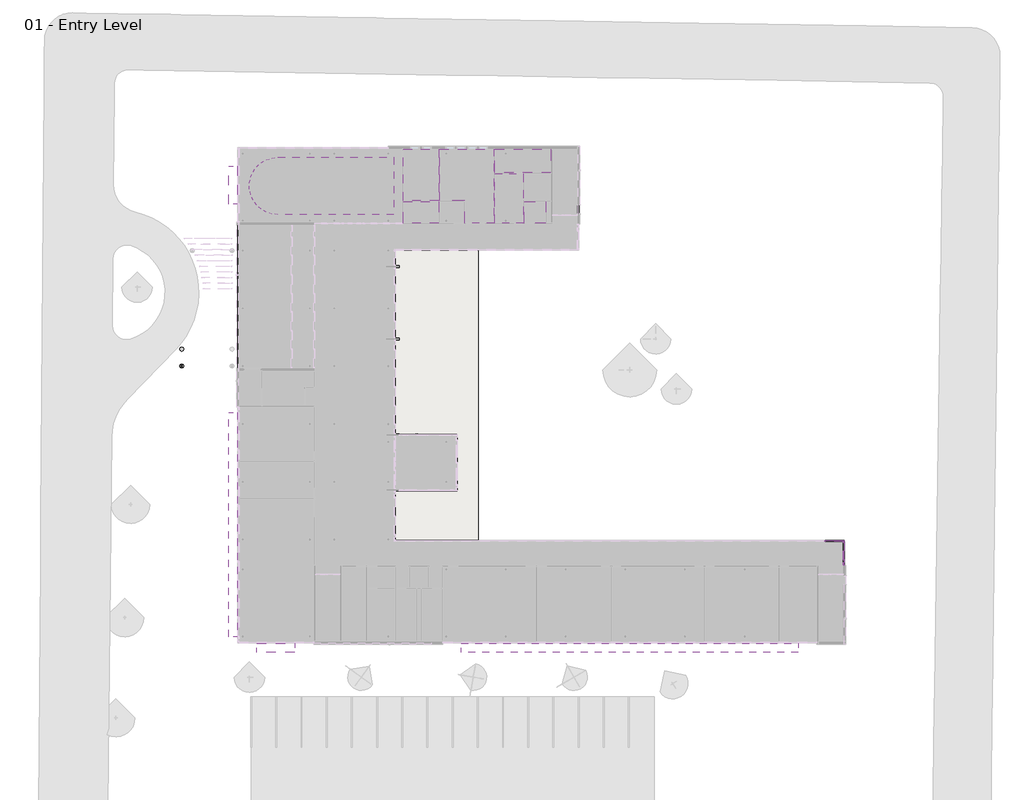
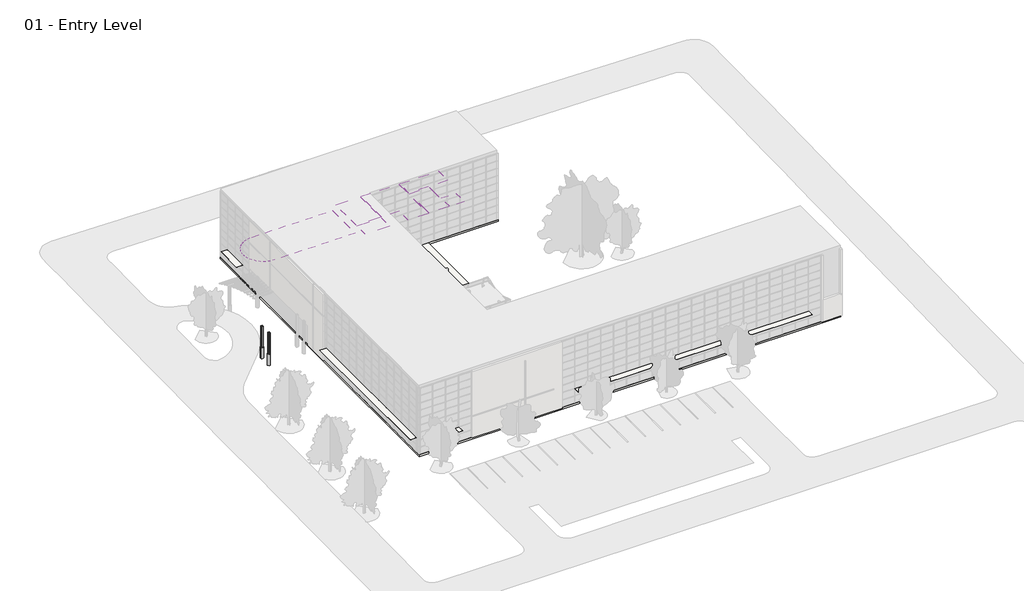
# One storey, part 32 of 34: 67 members, 27 plates, 7 coverings, 6 slabs, 4 columns.
"""IFC4 building model written with IfcOpenShell, lengths in millimetres."""

from ifc_helpers import new_model, si_unit, point, frame, frame_2d, origin, place, context, project, spatial, polyline, circle_curve, trimmed, segment, composite_curve, outline, extrude, transform, mapped, element, save
from components import column_5a4f3ead, member_6230916f, member_2b49869a, member_75074519, member_391b434c, member_81de2198, member_4eae0b13, member_9822c4e5, member_b50b2218, system_panel_glazed_d0ecad2d, system_panel_glazed_85a31dd6, system_panel_glazed_01db37db, system_panel_glazed_0a464ab8

model = new_model("IFC4")

# Units and contexts
model_context = context("Model", 3, world=origin())
ifc_project = project(units=[si_unit("LENGTHUNIT", "METRE", prefix="MILLI")], contexts=[model_context])

# Site, building, storey
site = spatial("IfcSite", under=ifc_project)
building = spatial("IfcBuilding", under=site)
storey = spatial("IfcBuildingStorey", under=building, Name="01 - Entry Level", Elevation=0.0)

# Columns
placement = place(None, origin())
column_shape = column_5a4f3ead(model_context)
element("IfcColumn", 1, ObjectType="Concrete-Round-Column1 : 18\"", at=placement, inside=storey, context=model_context, shape_type="MappedRepresentation", body=[
    mapped(column_shape, transform((-6018.8792524, 31909.0364163, 0.0), x_axis=(1.0, 0.0, 0.0), y_axis=(0.0, 1.0, 0.0), z_axis=(0.0, 0.0, 1.0))),
])
element("IfcColumn", 2, ObjectType="Concrete-Round-Column1 : 18\"", at=placement, inside=storey, context=model_context, shape_type="MappedRepresentation", body=[
    mapped(column_shape, transform((-6018.8792524, 30064.0, 0.0), x_axis=(1.0, 0.0, 0.0), y_axis=(0.0, 1.0, 0.0), z_axis=(0.0, 0.0, 1.0))),
])
element("IfcColumn", 3, ObjectType="W-Wide Flange-Column : W10X49", at=placement, inside=storey, context=model_context, shape_type="SweptSolid", body=[
    extrude(outline(composite_curve([segment(polyline([(-5891.8792524, 30190.7519531), (-5891.8792524, 30176.5636719), (-5997.001518, 30176.5636719)]), True, "CONTINUOUS"), segment(trimmed(circle_curve(frame_2d((-5997.001518, 30159.0019531)), 17.5617187), [point((-5997.001518, 30176.5636719))], [point((-6014.5632367, 30159.0019531))], True, "CARTESIAN"), True, "CONTINUOUS"), segment(polyline([(-6014.5632367, 30159.0019531), (-6014.5632367, 29968.9980469)]), True, "CONTINUOUS"), segment(trimmed(circle_curve(frame_2d((-5997.001518, 29968.9980469)), 17.5617188), [point((-6014.5632367, 29968.9980469))], [point((-5997.001518, 29951.4363281))], True, "CARTESIAN"), True, "CONTINUOUS"), segment(polyline([(-5997.001518, 29951.4363281), (-5891.8792524, 29951.4363281), (-5891.8792524, 29937.2480469), (-6145.8792524, 29937.2480469), (-6145.8792524, 29951.4363281), (-6040.7569867, 29951.4363281)]), True, "CONTINUOUS"), segment(trimmed(circle_curve(frame_2d((-6040.7569867, 29968.9980469)), 17.5617188), [point((-6040.7569867, 29951.4363281))], [point((-6023.195268, 29968.9980469))], True, "CARTESIAN"), True, "CONTINUOUS"), segment(polyline([(-6023.195268, 29968.9980469), (-6023.195268, 30159.0019531)]), True, "CONTINUOUS"), segment(trimmed(circle_curve(frame_2d((-6040.7569867, 30159.0019531)), 17.5617188), [point((-6023.195268, 30159.0019531))], [point((-6040.7569867, 30176.5636719))], True, "CARTESIAN"), True, "CONTINUOUS"), segment(polyline([(-6040.7569867, 30176.5636719), (-6145.8792524, 30176.5636719), (-6145.8792524, 30190.7519531), (-5891.8792524, 30190.7519531)]), True, "CONTINUOUS")], self_intersect=False)), frame((0.0, 0.0, 609.6), z_axis=(0.0, 0.0, 1.0), x_axis=(1.0, 0.0, 0.0)), (0.0, 0.0, 1.0), 3489.5619178),
])
element("IfcColumn", 4, ObjectType="W-Wide Flange-Column : W10X49", at=placement, inside=storey, context=model_context, shape_type="SweptSolid", body=[
    extrude(outline(composite_curve([segment(polyline([(-5891.8792524, 32035.7883694), (-5891.8792524, 32021.6000882), (-5997.001518, 32021.6000882)]), True, "CONTINUOUS"), segment(trimmed(circle_curve(frame_2d((-5997.001518, 32004.0383694)), 17.5617187), [point((-5997.001518, 32021.6000882))], [point((-6014.5632367, 32004.0383694))], True, "CARTESIAN"), True, "CONTINUOUS"), segment(polyline([(-6014.5632367, 32004.0383694), (-6014.5632367, 31814.0344632)]), True, "CONTINUOUS"), segment(trimmed(circle_curve(frame_2d((-5997.001518, 31814.0344632)), 17.5617188), [point((-6014.5632367, 31814.0344632))], [point((-5997.001518, 31796.4727444))], True, "CARTESIAN"), True, "CONTINUOUS"), segment(polyline([(-5997.001518, 31796.4727444), (-5891.8792524, 31796.4727444), (-5891.8792524, 31782.2844632), (-6145.8792524, 31782.2844632), (-6145.8792524, 31796.4727444), (-6040.7569867, 31796.4727444)]), True, "CONTINUOUS"), segment(trimmed(circle_curve(frame_2d((-6040.7569867, 31814.0344632)), 17.5617188), [point((-6040.7569867, 31796.4727444))], [point((-6023.195268, 31814.0344632))], True, "CARTESIAN"), True, "CONTINUOUS"), segment(polyline([(-6023.195268, 31814.0344632), (-6023.195268, 32004.0383694)]), True, "CONTINUOUS"), segment(trimmed(circle_curve(frame_2d((-6040.7569867, 32004.0383694)), 17.5617188), [point((-6023.195268, 32004.0383694))], [point((-6040.7569867, 32021.6000882))], True, "CARTESIAN"), True, "CONTINUOUS"), segment(polyline([(-6040.7569867, 32021.6000882), (-6145.8792524, 32021.6000882), (-6145.8792524, 32035.7883694), (-5891.8792524, 32035.7883694)]), True, "CONTINUOUS")], self_intersect=False)), frame((0.0, 0.0, 609.6), z_axis=(0.0, 0.0, 1.0), x_axis=(1.0, 0.0, 0.0)), (0.0, 0.0, 1.0), 3433.4391371),
])

# Coverings
element("IfcCovering", 5, ObjectType="2' x 2' ACT System", at=placement, inside=storey, context=model_context, shape_type="SweptSolid", body=[
    extrude(outline(polyline([(22086.2207476, 48110.7), (22086.2207476, 53724.1), (27979.0207476, 53724.1), (27979.0207476, 45672.3), (24829.4207476, 45672.3), (24829.4207476, 48110.7), (22086.2207476, 48110.7)])), frame((0.0, 0.0, 2438.4), z_axis=(0.0, 0.0, 1.0), x_axis=(1.0, 0.0, 0.0)), (0.0, 0.0, 1.0), 57.15),
])
element("IfcCovering", 6, ObjectType="2' x 2' ACT System", at=placement, inside=storey, context=model_context, shape_type="SweptSolid", body=[
    extrude(outline(polyline([(31192.1207476, 45672.3), (28106.0207476, 45672.3), (28106.0207476, 51019.0), (31192.1207476, 51019.0), (31192.1207476, 45672.3)])), frame((0.0, 0.0, 2438.4), z_axis=(0.0, 0.0, 1.0), x_axis=(1.0, 0.0, 0.0)), (0.0, 0.0, 1.0), 57.15),
])
element("IfcCovering", 7, ObjectType="2' x 2' ACT System", at=placement, inside=storey, context=model_context, shape_type="SweptSolid", body=[
    extrude(outline(polyline([(28106.0207476, 51146.0), (28106.0207476, 53724.1), (34202.0207476, 53724.1), (34202.0207476, 51146.0), (28106.0207476, 51146.0)])), frame((0.0, 0.0, 2438.4), z_axis=(0.0, 0.0, 1.0), x_axis=(1.0, 0.0, 0.0)), (0.0, 0.0, 1.0), 57.15),
])
element("IfcCovering", 8, ObjectType="2' x 2' ACT System", at=placement, inside=storey, context=model_context, shape_type="SweptSolid", body=[
    extrude(outline(polyline([(33630.5207476, 47983.7), (33630.5207476, 45672.3), (31319.1207476, 45672.3), (31319.1207476, 47983.7), (33630.5207476, 47983.7)])), frame((0.0, 0.0, 2438.4), z_axis=(0.0, 0.0, 1.0), x_axis=(1.0, 0.0, 0.0)), (0.0, 0.0, 1.0), 57.15),
])
element("IfcCovering", 9, ObjectType="2' x 2' ACT System", at=placement, inside=storey, context=model_context, shape_type="SweptSolid", body=[
    extrude(outline(composite_curve([segment(polyline([(4458.6207476, 52809.7), (17082.4207476, 52809.7), (17082.4207476, 46586.7), (4458.6207476, 46586.7)]), True, "CONTINUOUS"), segment(trimmed(circle_curve(frame_2d((4458.6207476, 49698.2)), 3111.5), [point((4458.6207476, 46586.7))], [point((4458.6207476, 52809.7))], False, "CARTESIAN"), True, "CONTINUOUS")], self_intersect=False)), frame((0.0, 0.0, 2438.4), z_axis=(0.0, 0.0, 1.0), x_axis=(1.0, 0.0, 0.0)), (0.0, 0.0, 1.0), 57.15),
])
element("IfcCovering", 10, ObjectType="GWB on Mtl. Stud", at=placement, inside=storey, context=model_context, shape_type="SweptSolid", body=[
    extrude(outline(polyline([(18123.8207476, 48110.7), (18123.8207476, 53724.1), (21959.2207476, 53724.1), (21959.2207476, 48110.7), (18123.8207476, 48110.7)])), frame((0.0, 0.0, 2438.4), z_axis=(0.0, 0.0, 1.0), x_axis=(1.0, 0.0, 0.0)), (0.0, 0.0, 1.0), 107.95),
])
element("IfcCovering", 11, ObjectType="GWB on Mtl. Stud", at=placement, inside=storey, context=model_context, shape_type="SweptSolid", body=[
    extrude(outline(polyline([(21959.2207476, 45672.3), (18123.8207476, 45672.3), (18123.8207476, 47983.7), (21959.2207476, 47983.7), (21959.2207476, 45672.3)])), frame((0.0, 0.0, 2438.4), z_axis=(0.0, 0.0, 1.0), x_axis=(1.0, 0.0, 0.0)), (0.0, 0.0, 1.0), 107.95),
])

# Members
member_shape = member_6230916f(model_context)
element("IfcMember", 12, ObjectType="L Corner Mullion : 5\" x 5\" Corner", at=placement, inside=storey, context=model_context, shape_type="MappedRepresentation", body=[
    mapped(member_shape, transform((66104.4207476, 11001.3, 0.0), x_axis=(0.0, 1.0, 0.0), y_axis=(1.0, 0.0, 0.0), z_axis=(0.0, 0.0, -1.0))),
])
element("IfcMember", 13, ObjectType="L Corner Mullion : 5\" x 5\" Corner", at=placement, inside=storey, context=model_context, shape_type="MappedRepresentation", body=[
    mapped(member_shape, transform((66104.4207476, 11001.3, 1219.2), x_axis=(0.0, 1.0, 0.0), y_axis=(1.0, 0.0, 0.0), z_axis=(0.0, 0.0, -1.0))),
])
element("IfcMember", 14, ObjectType="L Corner Mullion : 5\" x 5\" Corner", at=placement, inside=storey, context=model_context, shape_type="MappedRepresentation", body=[
    mapped(member_shape, transform((66104.4207476, 11001.3, 2438.4), x_axis=(0.0, 1.0, 0.0), y_axis=(1.0, 0.0, 0.0), z_axis=(0.0, 0.0, -1.0))),
])
element("IfcMember", 15, ObjectType="L Corner Mullion : 5\" x 5\" Corner", at=placement, inside=storey, context=model_context, shape_type="MappedRepresentation", body=[
    mapped(member_shape, transform((66104.4207476, 11001.3, 3657.6), x_axis=(0.0, 1.0, 0.0), y_axis=(1.0, 0.0, 0.0), z_axis=(0.0, 0.0, -1.0))),
])
element("IfcMember", 16, ObjectType="L Corner Mullion : 5\" x 5\" Corner", at=placement, inside=storey, context=model_context, shape_type="MappedRepresentation", body=[
    mapped(member_shape, transform((66104.4207476, 11001.3, 4876.8), x_axis=(0.0, 1.0, 0.0), y_axis=(1.0, 0.0, 0.0), z_axis=(0.0, 0.0, -1.0))),
])
element("IfcMember", 17, ObjectType="L Corner Mullion : 5\" x 5\" Corner", at=placement, inside=storey, context=model_context, shape_type="MappedRepresentation", body=[
    mapped(member_shape, transform((66104.4207476, 11001.3, 6096.0), x_axis=(0.0, 1.0, 0.0), y_axis=(1.0, 0.0, 0.0), z_axis=(0.0, 0.0, -1.0))),
])
element("IfcMember", 18, ObjectType="L Corner Mullion : 5\" x 5\" Corner", at=placement, inside=storey, context=model_context, shape_type="MappedRepresentation", body=[
    mapped(member_shape, transform((66104.4207476, 11001.3, 7315.2), x_axis=(0.0, 1.0, 0.0), y_axis=(1.0, 0.0, 0.0), z_axis=(0.0, 0.0, -1.0))),
])
element("IfcMember", 19, ObjectType="L Corner Mullion : 5\" x 5\" Corner", at=placement, inside=storey, context=model_context, shape_type="MappedRepresentation", body=[
    mapped(member_shape, transform((66104.4207476, 11001.3, 8534.4), x_axis=(0.0, 1.0, 0.0), y_axis=(1.0, 0.0, 0.0), z_axis=(0.0, 0.0, -1.0))),
])
element("IfcMember", 20, ObjectType="L Corner Mullion : 5\" x 5\" Corner", at=placement, inside=storey, context=model_context, shape_type="MappedRepresentation", body=[
    mapped(member_shape, transform((66104.4207476, 11001.3, 9753.6), x_axis=(0.0, 1.0, 0.0), y_axis=(1.0, 0.0, 0.0), z_axis=(0.0, 0.0, -1.0))),
])
member_2_shape = member_2b49869a(model_context)
element("IfcMember", 21, ObjectType="Rectangular Mullion : 2.5\" x 5\" rectangular", at=placement, inside=storey, context=model_context, shape_type="MappedRepresentation", body=[
    mapped(member_2_shape, transform((64072.4207476, 11001.3, 9753.6), x_axis=(-1.0, 0.0, 0.0), y_axis=(0.0, 1.0, 0.0), z_axis=(0.0, 0.0, -1.0))),
])
element("IfcMember", 22, ObjectType="Rectangular Mullion : 2.5\" x 5\" rectangular", at=placement, inside=storey, context=model_context, shape_type="MappedRepresentation", body=[
    mapped(member_2_shape, transform((66104.4207476, 8969.3, 9753.6), x_axis=(0.0, 1.0, 0.0), y_axis=(1.0, 0.0, 0.0), z_axis=(0.0, 0.0, -1.0))),
])
member_3_shape = member_75074519(model_context)
element("IfcMember", 23, ObjectType="Rectangular Mullion : 2.5\" x 5\" rectangular", at=placement, inside=storey, context=model_context, shape_type="MappedRepresentation", body=[
    mapped(member_3_shape, transform((66104.4207476, 8334.3, 10972.8), x_axis=(0.0, -1.0, 0.0), y_axis=(1.0, 0.0, 0.0), z_axis=(0.0, 0.0, 1.0))),
])
member_4_shape = member_391b434c(model_context)
element("IfcMember", 24, ObjectType="Rectangular Mullion : 2.5\" x 5\" rectangular", at=placement, inside=storey, context=model_context, shape_type="MappedRepresentation", body=[
    mapped(member_4_shape, transform((64040.6707476, 11001.3, 0.0), x_axis=(0.0, 0.0, -1.0), y_axis=(0.0, 1.0, 0.0), z_axis=(1.0, 0.0, 0.0))),
])
element("IfcMember", 25, ObjectType="Rectangular Mullion : 2.5\" x 5\" rectangular", at=placement, inside=storey, context=model_context, shape_type="MappedRepresentation", body=[
    mapped(member_2_shape, transform((64072.4207476, 11001.3, 0.0), x_axis=(-1.0, 0.0, 0.0), y_axis=(0.0, 1.0, 0.0), z_axis=(0.0, 0.0, -1.0))),
])
element("IfcMember", 26, ObjectType="Rectangular Mullion : 2.5\" x 5\" rectangular", at=placement, inside=storey, context=model_context, shape_type="MappedRepresentation", body=[
    mapped(member_2_shape, transform((66104.4207476, 8969.3, 0.0), x_axis=(0.0, 1.0, 0.0), y_axis=(1.0, 0.0, 0.0), z_axis=(0.0, 0.0, -1.0))),
])
element("IfcMember", 27, ObjectType="Rectangular Mullion : 2.5\" x 5\" rectangular", at=placement, inside=storey, context=model_context, shape_type="MappedRepresentation", body=[
    mapped(member_2_shape, transform((64072.4207476, 11001.3, 1219.2), x_axis=(-1.0, 0.0, 0.0), y_axis=(0.0, 1.0, 0.0), z_axis=(0.0, 0.0, -1.0))),
])
element("IfcMember", 28, ObjectType="Rectangular Mullion : 2.5\" x 5\" rectangular", at=placement, inside=storey, context=model_context, shape_type="MappedRepresentation", body=[
    mapped(member_2_shape, transform((64072.4207476, 11001.3, 2438.4), x_axis=(-1.0, 0.0, 0.0), y_axis=(0.0, 1.0, 0.0), z_axis=(0.0, 0.0, -1.0))),
])
element("IfcMember", 29, ObjectType="Rectangular Mullion : 2.5\" x 5\" rectangular", at=placement, inside=storey, context=model_context, shape_type="MappedRepresentation", body=[
    mapped(member_2_shape, transform((64072.4207476, 11001.3, 3657.6), x_axis=(-1.0, 0.0, 0.0), y_axis=(0.0, 1.0, 0.0), z_axis=(0.0, 0.0, -1.0))),
])
element("IfcMember", 30, ObjectType="Rectangular Mullion : 2.5\" x 5\" rectangular", at=placement, inside=storey, context=model_context, shape_type="MappedRepresentation", body=[
    mapped(member_2_shape, transform((64072.4207476, 11001.3, 4876.8), x_axis=(-1.0, 0.0, 0.0), y_axis=(0.0, 1.0, 0.0), z_axis=(0.0, 0.0, -1.0))),
])
element("IfcMember", 31, ObjectType="Rectangular Mullion : 2.5\" x 5\" rectangular", at=placement, inside=storey, context=model_context, shape_type="MappedRepresentation", body=[
    mapped(member_2_shape, transform((64072.4207476, 11001.3, 6096.0), x_axis=(-1.0, 0.0, 0.0), y_axis=(0.0, 1.0, 0.0), z_axis=(0.0, 0.0, -1.0))),
])
element("IfcMember", 32, ObjectType="Rectangular Mullion : 2.5\" x 5\" rectangular", at=placement, inside=storey, context=model_context, shape_type="MappedRepresentation", body=[
    mapped(member_2_shape, transform((64072.4207476, 11001.3, 7315.2), x_axis=(-1.0, 0.0, 0.0), y_axis=(0.0, 1.0, 0.0), z_axis=(0.0, 0.0, -1.0))),
])
element("IfcMember", 33, ObjectType="Rectangular Mullion : 2.5\" x 5\" rectangular", at=placement, inside=storey, context=model_context, shape_type="MappedRepresentation", body=[
    mapped(member_2_shape, transform((64072.4207476, 11001.3, 8534.4), x_axis=(-1.0, 0.0, 0.0), y_axis=(0.0, 1.0, 0.0), z_axis=(0.0, 0.0, -1.0))),
])
element("IfcMember", 34, ObjectType="Rectangular Mullion : 2.5\" x 5\" rectangular", at=placement, inside=storey, context=model_context, shape_type="MappedRepresentation", body=[
    mapped(member_2_shape, transform((66104.4207476, 8969.3, 1219.2), x_axis=(0.0, 1.0, 0.0), y_axis=(1.0, 0.0, 0.0), z_axis=(0.0, 0.0, -1.0))),
])
element("IfcMember", 35, ObjectType="Rectangular Mullion : 2.5\" x 5\" rectangular", at=placement, inside=storey, context=model_context, shape_type="MappedRepresentation", body=[
    mapped(member_2_shape, transform((66104.4207476, 8969.3, 2438.4), x_axis=(0.0, 1.0, 0.0), y_axis=(1.0, 0.0, 0.0), z_axis=(0.0, 0.0, -1.0))),
])
element("IfcMember", 36, ObjectType="Rectangular Mullion : 2.5\" x 5\" rectangular", at=placement, inside=storey, context=model_context, shape_type="MappedRepresentation", body=[
    mapped(member_2_shape, transform((66104.4207476, 8969.3, 3657.6), x_axis=(0.0, 1.0, 0.0), y_axis=(1.0, 0.0, 0.0), z_axis=(0.0, 0.0, -1.0))),
])
element("IfcMember", 37, ObjectType="Rectangular Mullion : 2.5\" x 5\" rectangular", at=placement, inside=storey, context=model_context, shape_type="MappedRepresentation", body=[
    mapped(member_2_shape, transform((66104.4207476, 8969.3, 4876.8), x_axis=(0.0, 1.0, 0.0), y_axis=(1.0, 0.0, 0.0), z_axis=(0.0, 0.0, -1.0))),
])
element("IfcMember", 38, ObjectType="Rectangular Mullion : 2.5\" x 5\" rectangular", at=placement, inside=storey, context=model_context, shape_type="MappedRepresentation", body=[
    mapped(member_2_shape, transform((66104.4207476, 8969.3, 6096.0), x_axis=(0.0, 1.0, 0.0), y_axis=(1.0, 0.0, 0.0), z_axis=(0.0, 0.0, -1.0))),
])
element("IfcMember", 39, ObjectType="Rectangular Mullion : 2.5\" x 5\" rectangular", at=placement, inside=storey, context=model_context, shape_type="MappedRepresentation", body=[
    mapped(member_2_shape, transform((66104.4207476, 8969.3, 7315.2), x_axis=(0.0, 1.0, 0.0), y_axis=(1.0, 0.0, 0.0), z_axis=(0.0, 0.0, -1.0))),
])
element("IfcMember", 40, ObjectType="Rectangular Mullion : 2.5\" x 5\" rectangular", at=placement, inside=storey, context=model_context, shape_type="MappedRepresentation", body=[
    mapped(member_2_shape, transform((66104.4207476, 8969.3, 8534.4), x_axis=(0.0, 1.0, 0.0), y_axis=(1.0, 0.0, 0.0), z_axis=(0.0, 0.0, -1.0))),
])
member_5_shape = member_81de2198(model_context)
element("IfcMember", 41, ObjectType="Rectangular Mullion : 2.5\" x 5\" rectangular", at=placement, inside=storey, context=model_context, shape_type="MappedRepresentation", body=[
    mapped(member_5_shape, transform((66104.4207476, 8937.55, 10972.8), x_axis=(0.0, 0.0, 1.0), y_axis=(1.0, 0.0, 0.0), z_axis=(0.0, 1.0, 0.0))),
])
element("IfcMember", 42, ObjectType="Rectangular Mullion : 2.5\" x 5\" rectangular", at=placement, inside=storey, context=model_context, shape_type="MappedRepresentation", body=[
    mapped(member_5_shape, transform((66104.4207476, 8397.8, 0.0), x_axis=(0.0, 0.0, -1.0), y_axis=(1.0, 0.0, 0.0), z_axis=(0.0, -1.0, 0.0))),
])
member_6_shape = member_4eae0b13(model_context)
element("IfcMember", 43, ObjectType="Rectangular Mullion : 2.5\" x 5\" rectangular", at=placement, inside=storey, context=model_context, shape_type="MappedRepresentation", body=[
    mapped(member_6_shape, transform((66104.4207476, 8937.55, 1219.2), x_axis=(0.0, 0.0, 1.0), y_axis=(1.0, 0.0, 0.0), z_axis=(0.0, 1.0, 0.0))),
])
element("IfcMember", 44, ObjectType="Rectangular Mullion : 2.5\" x 5\" rectangular", at=placement, inside=storey, context=model_context, shape_type="MappedRepresentation", body=[
    mapped(member_6_shape, transform((66104.4207476, 8937.55, 2438.4), x_axis=(0.0, 0.0, 1.0), y_axis=(1.0, 0.0, 0.0), z_axis=(0.0, 1.0, 0.0))),
])
element("IfcMember", 45, ObjectType="Rectangular Mullion : 2.5\" x 5\" rectangular", at=placement, inside=storey, context=model_context, shape_type="MappedRepresentation", body=[
    mapped(member_6_shape, transform((66104.4207476, 8937.55, 3657.6), x_axis=(0.0, 0.0, 1.0), y_axis=(1.0, 0.0, 0.0), z_axis=(0.0, 1.0, 0.0))),
])
element("IfcMember", 46, ObjectType="Rectangular Mullion : 2.5\" x 5\" rectangular", at=placement, inside=storey, context=model_context, shape_type="MappedRepresentation", body=[
    mapped(member_6_shape, transform((66104.4207476, 8937.55, 4876.8), x_axis=(0.0, 0.0, 1.0), y_axis=(1.0, 0.0, 0.0), z_axis=(0.0, 1.0, 0.0))),
])
element("IfcMember", 47, ObjectType="Rectangular Mullion : 2.5\" x 5\" rectangular", at=placement, inside=storey, context=model_context, shape_type="MappedRepresentation", body=[
    mapped(member_6_shape, transform((66104.4207476, 8937.55, 6096.0), x_axis=(0.0, 0.0, 1.0), y_axis=(1.0, 0.0, 0.0), z_axis=(0.0, 1.0, 0.0))),
])
element("IfcMember", 48, ObjectType="Rectangular Mullion : 2.5\" x 5\" rectangular", at=placement, inside=storey, context=model_context, shape_type="MappedRepresentation", body=[
    mapped(member_6_shape, transform((66104.4207476, 8937.55, 7315.2), x_axis=(0.0, 0.0, 1.0), y_axis=(1.0, 0.0, 0.0), z_axis=(0.0, 1.0, 0.0))),
])
element("IfcMember", 49, ObjectType="Rectangular Mullion : 2.5\" x 5\" rectangular", at=placement, inside=storey, context=model_context, shape_type="MappedRepresentation", body=[
    mapped(member_6_shape, transform((66104.4207476, 8937.55, 8534.4), x_axis=(0.0, 0.0, 1.0), y_axis=(1.0, 0.0, 0.0), z_axis=(0.0, 1.0, 0.0))),
])
element("IfcMember", 50, ObjectType="Rectangular Mullion : 2.5\" x 5\" rectangular", at=placement, inside=storey, context=model_context, shape_type="MappedRepresentation", body=[
    mapped(member_6_shape, transform((66104.4207476, 8937.55, 9753.6), x_axis=(0.0, 0.0, 1.0), y_axis=(1.0, 0.0, 0.0), z_axis=(0.0, 1.0, 0.0))),
])
element("IfcMember", 51, ObjectType="Rectangular Mullion : 2.5\" x 5\" rectangular", at=placement, inside=storey, context=model_context, shape_type="MappedRepresentation", body=[
    mapped(member_3_shape, transform((66104.4207476, 8334.3, 1219.2), x_axis=(0.0, -1.0, 0.0), y_axis=(1.0, 0.0, 0.0), z_axis=(0.0, 0.0, 1.0))),
])
element("IfcMember", 52, ObjectType="Rectangular Mullion : 2.5\" x 5\" rectangular", at=placement, inside=storey, context=model_context, shape_type="MappedRepresentation", body=[
    mapped(member_3_shape, transform((66104.4207476, 8334.3, 2438.4), x_axis=(0.0, -1.0, 0.0), y_axis=(1.0, 0.0, 0.0), z_axis=(0.0, 0.0, 1.0))),
])
element("IfcMember", 53, ObjectType="Rectangular Mullion : 2.5\" x 5\" rectangular", at=placement, inside=storey, context=model_context, shape_type="MappedRepresentation", body=[
    mapped(member_3_shape, transform((66104.4207476, 8334.3, 3657.6), x_axis=(0.0, -1.0, 0.0), y_axis=(1.0, 0.0, 0.0), z_axis=(0.0, 0.0, 1.0))),
])
element("IfcMember", 54, ObjectType="Rectangular Mullion : 2.5\" x 5\" rectangular", at=placement, inside=storey, context=model_context, shape_type="MappedRepresentation", body=[
    mapped(member_3_shape, transform((66104.4207476, 8334.3, 4876.8), x_axis=(0.0, -1.0, 0.0), y_axis=(1.0, 0.0, 0.0), z_axis=(0.0, 0.0, 1.0))),
])
element("IfcMember", 55, ObjectType="Rectangular Mullion : 2.5\" x 5\" rectangular", at=placement, inside=storey, context=model_context, shape_type="MappedRepresentation", body=[
    mapped(member_3_shape, transform((66104.4207476, 8334.3, 6096.0), x_axis=(0.0, -1.0, 0.0), y_axis=(1.0, 0.0, 0.0), z_axis=(0.0, 0.0, 1.0))),
])
element("IfcMember", 56, ObjectType="Rectangular Mullion : 2.5\" x 5\" rectangular", at=placement, inside=storey, context=model_context, shape_type="MappedRepresentation", body=[
    mapped(member_3_shape, transform((66104.4207476, 8334.3, 7315.2), x_axis=(0.0, -1.0, 0.0), y_axis=(1.0, 0.0, 0.0), z_axis=(0.0, 0.0, 1.0))),
])
element("IfcMember", 57, ObjectType="Rectangular Mullion : 2.5\" x 5\" rectangular", at=placement, inside=storey, context=model_context, shape_type="MappedRepresentation", body=[
    mapped(member_3_shape, transform((66104.4207476, 8334.3, 8534.4), x_axis=(0.0, -1.0, 0.0), y_axis=(1.0, 0.0, 0.0), z_axis=(0.0, 0.0, 1.0))),
])
element("IfcMember", 58, ObjectType="Rectangular Mullion : 2.5\" x 5\" rectangular", at=placement, inside=storey, context=model_context, shape_type="MappedRepresentation", body=[
    mapped(member_3_shape, transform((66104.4207476, 8334.3, 9753.6), x_axis=(0.0, -1.0, 0.0), y_axis=(1.0, 0.0, 0.0), z_axis=(0.0, 0.0, 1.0))),
])
member_7_shape = member_9822c4e5(model_context)
element("IfcMember", 59, ObjectType="Rectangular Mullion : 2.5\" x 5\" rectangular", at=placement, inside=storey, context=model_context, shape_type="MappedRepresentation", body=[
    mapped(member_7_shape, transform((66104.4207476, 10874.3, 10972.8), x_axis=(0.0, 0.0, 1.0), y_axis=(1.0, 0.0, 0.0), z_axis=(0.0, 1.0, 0.0))),
])
element("IfcMember", 60, ObjectType="Rectangular Mullion : 2.5\" x 5\" rectangular", at=placement, inside=storey, context=model_context, shape_type="MappedRepresentation", body=[
    mapped(member_7_shape, transform((64104.1707476, 11001.3, 10972.8), x_axis=(0.0, 0.0, 1.0), y_axis=(0.0, 1.0, 0.0), z_axis=(-1.0, 0.0, 0.0))),
])
element("IfcMember", 61, ObjectType="Rectangular Mullion : 2.5\" x 5\" rectangular", at=placement, inside=storey, context=model_context, shape_type="MappedRepresentation", body=[
    mapped(member_7_shape, transform((65977.4207476, 11001.3, 0.0), x_axis=(0.0, 0.0, -1.0), y_axis=(0.0, 1.0, 0.0), z_axis=(1.0, 0.0, 0.0))),
])
element("IfcMember", 62, ObjectType="Rectangular Mullion : 2.5\" x 5\" rectangular", at=placement, inside=storey, context=model_context, shape_type="MappedRepresentation", body=[
    mapped(member_7_shape, transform((66104.4207476, 9001.05, 0.0), x_axis=(0.0, 0.0, -1.0), y_axis=(1.0, 0.0, 0.0), z_axis=(0.0, -1.0, 0.0))),
])
member_8_shape = member_b50b2218(model_context)
element("IfcMember", 63, ObjectType="Rectangular Mullion : 2.5\" x 5\" rectangular", at=placement, inside=storey, context=model_context, shape_type="MappedRepresentation", body=[
    mapped(member_8_shape, transform((66104.4207476, 10874.3, 1219.2), x_axis=(0.0, 0.0, 1.0), y_axis=(1.0, 0.0, 0.0), z_axis=(0.0, 1.0, 0.0))),
])
element("IfcMember", 64, ObjectType="Rectangular Mullion : 2.5\" x 5\" rectangular", at=placement, inside=storey, context=model_context, shape_type="MappedRepresentation", body=[
    mapped(member_8_shape, transform((66104.4207476, 10874.3, 2438.4), x_axis=(0.0, 0.0, 1.0), y_axis=(1.0, 0.0, 0.0), z_axis=(0.0, 1.0, 0.0))),
])
element("IfcMember", 65, ObjectType="Rectangular Mullion : 2.5\" x 5\" rectangular", at=placement, inside=storey, context=model_context, shape_type="MappedRepresentation", body=[
    mapped(member_8_shape, transform((66104.4207476, 10874.3, 3657.6), x_axis=(0.0, 0.0, 1.0), y_axis=(1.0, 0.0, 0.0), z_axis=(0.0, 1.0, 0.0))),
])
element("IfcMember", 66, ObjectType="Rectangular Mullion : 2.5\" x 5\" rectangular", at=placement, inside=storey, context=model_context, shape_type="MappedRepresentation", body=[
    mapped(member_8_shape, transform((66104.4207476, 10874.3, 4876.8), x_axis=(0.0, 0.0, 1.0), y_axis=(1.0, 0.0, 0.0), z_axis=(0.0, 1.0, 0.0))),
])
element("IfcMember", 67, ObjectType="Rectangular Mullion : 2.5\" x 5\" rectangular", at=placement, inside=storey, context=model_context, shape_type="MappedRepresentation", body=[
    mapped(member_8_shape, transform((66104.4207476, 10874.3, 6096.0), x_axis=(0.0, 0.0, 1.0), y_axis=(1.0, 0.0, 0.0), z_axis=(0.0, 1.0, 0.0))),
])
element("IfcMember", 68, ObjectType="Rectangular Mullion : 2.5\" x 5\" rectangular", at=placement, inside=storey, context=model_context, shape_type="MappedRepresentation", body=[
    mapped(member_8_shape, transform((66104.4207476, 10874.3, 7315.2), x_axis=(0.0, 0.0, 1.0), y_axis=(1.0, 0.0, 0.0), z_axis=(0.0, 1.0, 0.0))),
])
element("IfcMember", 69, ObjectType="Rectangular Mullion : 2.5\" x 5\" rectangular", at=placement, inside=storey, context=model_context, shape_type="MappedRepresentation", body=[
    mapped(member_8_shape, transform((66104.4207476, 10874.3, 8534.4), x_axis=(0.0, 0.0, 1.0), y_axis=(1.0, 0.0, 0.0), z_axis=(0.0, 1.0, 0.0))),
])
element("IfcMember", 70, ObjectType="Rectangular Mullion : 2.5\" x 5\" rectangular", at=placement, inside=storey, context=model_context, shape_type="MappedRepresentation", body=[
    mapped(member_8_shape, transform((66104.4207476, 10874.3, 9753.6), x_axis=(0.0, 0.0, 1.0), y_axis=(1.0, 0.0, 0.0), z_axis=(0.0, 1.0, 0.0))),
])
element("IfcMember", 71, ObjectType="Rectangular Mullion : 2.5\" x 5\" rectangular", at=placement, inside=storey, context=model_context, shape_type="MappedRepresentation", body=[
    mapped(member_8_shape, transform((64104.1707476, 11001.3, 1219.2), x_axis=(0.0, 0.0, 1.0), y_axis=(0.0, 1.0, 0.0), z_axis=(-1.0, 0.0, 0.0))),
])
element("IfcMember", 72, ObjectType="Rectangular Mullion : 2.5\" x 5\" rectangular", at=placement, inside=storey, context=model_context, shape_type="MappedRepresentation", body=[
    mapped(member_8_shape, transform((64104.1707476, 11001.3, 2438.4), x_axis=(0.0, 0.0, 1.0), y_axis=(0.0, 1.0, 0.0), z_axis=(-1.0, 0.0, 0.0))),
])
element("IfcMember", 73, ObjectType="Rectangular Mullion : 2.5\" x 5\" rectangular", at=placement, inside=storey, context=model_context, shape_type="MappedRepresentation", body=[
    mapped(member_8_shape, transform((64104.1707476, 11001.3, 3657.6), x_axis=(0.0, 0.0, 1.0), y_axis=(0.0, 1.0, 0.0), z_axis=(-1.0, 0.0, 0.0))),
])
element("IfcMember", 74, ObjectType="Rectangular Mullion : 2.5\" x 5\" rectangular", at=placement, inside=storey, context=model_context, shape_type="MappedRepresentation", body=[
    mapped(member_8_shape, transform((64104.1707476, 11001.3, 4876.8), x_axis=(0.0, 0.0, 1.0), y_axis=(0.0, 1.0, 0.0), z_axis=(-1.0, 0.0, 0.0))),
])
element("IfcMember", 75, ObjectType="Rectangular Mullion : 2.5\" x 5\" rectangular", at=placement, inside=storey, context=model_context, shape_type="MappedRepresentation", body=[
    mapped(member_8_shape, transform((64104.1707476, 11001.3, 6096.0), x_axis=(0.0, 0.0, 1.0), y_axis=(0.0, 1.0, 0.0), z_axis=(-1.0, 0.0, 0.0))),
])
element("IfcMember", 76, ObjectType="Rectangular Mullion : 2.5\" x 5\" rectangular", at=placement, inside=storey, context=model_context, shape_type="MappedRepresentation", body=[
    mapped(member_8_shape, transform((64104.1707476, 11001.3, 7315.2), x_axis=(0.0, 0.0, 1.0), y_axis=(0.0, 1.0, 0.0), z_axis=(-1.0, 0.0, 0.0))),
])
element("IfcMember", 77, ObjectType="Rectangular Mullion : 2.5\" x 5\" rectangular", at=placement, inside=storey, context=model_context, shape_type="MappedRepresentation", body=[
    mapped(member_8_shape, transform((64104.1707476, 11001.3, 8534.4), x_axis=(0.0, 0.0, 1.0), y_axis=(0.0, 1.0, 0.0), z_axis=(-1.0, 0.0, 0.0))),
])
element("IfcMember", 78, ObjectType="Rectangular Mullion : 2.5\" x 5\" rectangular", at=placement, inside=storey, context=model_context, shape_type="MappedRepresentation", body=[
    mapped(member_8_shape, transform((64104.1707476, 11001.3, 9753.6), x_axis=(0.0, 0.0, 1.0), y_axis=(0.0, 1.0, 0.0), z_axis=(-1.0, 0.0, 0.0))),
])

# Plates
system_panel_glazed_shape = system_panel_glazed_d0ecad2d(model_context)
element("IfcPlate", 79, ObjectType="System Panel : Glazed", at=placement, inside=storey, context=model_context, shape_type="MappedRepresentation", body=[
    mapped(system_panel_glazed_shape, transform((66104.4207476, 8667.675, 63.5), x_axis=(0.0, 1.0, 0.0), y_axis=(-1.0, 0.0, 0.0), z_axis=(0.0, 0.0, 1.0))),
])
element("IfcPlate", 80, ObjectType="System Panel : Glazed", at=placement, inside=storey, context=model_context, shape_type="MappedRepresentation", body=[
    mapped(system_panel_glazed_shape, transform((66104.4207476, 8667.675, 9785.35), x_axis=(0.0, 1.0, 0.0), y_axis=(-1.0, 0.0, 0.0), z_axis=(0.0, 0.0, 1.0))),
])
system_panel_glazed_2_shape = system_panel_glazed_85a31dd6(model_context)
element("IfcPlate", 81, ObjectType="System Panel : Glazed", at=placement, inside=storey, context=model_context, shape_type="MappedRepresentation", body=[
    mapped(system_panel_glazed_2_shape, transform((66104.4207476, 8667.675, 1250.95), x_axis=(0.0, 1.0, 0.0), y_axis=(-1.0, 0.0, 0.0), z_axis=(0.0, 0.0, 1.0))),
])
element("IfcPlate", 82, ObjectType="System Panel : Glazed", at=placement, inside=storey, context=model_context, shape_type="MappedRepresentation", body=[
    mapped(system_panel_glazed_2_shape, transform((66104.4207476, 8667.675, 2470.15), x_axis=(0.0, 1.0, 0.0), y_axis=(-1.0, 0.0, 0.0), z_axis=(0.0, 0.0, 1.0))),
])
element("IfcPlate", 83, ObjectType="System Panel : Glazed", at=placement, inside=storey, context=model_context, shape_type="MappedRepresentation", body=[
    mapped(system_panel_glazed_2_shape, transform((66104.4207476, 8667.675, 3689.35), x_axis=(0.0, 1.0, 0.0), y_axis=(-1.0, 0.0, 0.0), z_axis=(0.0, 0.0, 1.0))),
])
element("IfcPlate", 84, ObjectType="System Panel : Glazed", at=placement, inside=storey, context=model_context, shape_type="MappedRepresentation", body=[
    mapped(system_panel_glazed_2_shape, transform((66104.4207476, 8667.675, 4908.55), x_axis=(0.0, 1.0, 0.0), y_axis=(-1.0, 0.0, 0.0), z_axis=(0.0, 0.0, 1.0))),
])
element("IfcPlate", 85, ObjectType="System Panel : Glazed", at=placement, inside=storey, context=model_context, shape_type="MappedRepresentation", body=[
    mapped(system_panel_glazed_2_shape, transform((66104.4207476, 8667.675, 6127.75), x_axis=(0.0, 1.0, 0.0), y_axis=(-1.0, 0.0, 0.0), z_axis=(0.0, 0.0, 1.0))),
])
element("IfcPlate", 86, ObjectType="System Panel : Glazed", at=placement, inside=storey, context=model_context, shape_type="MappedRepresentation", body=[
    mapped(system_panel_glazed_2_shape, transform((66104.4207476, 8667.675, 7346.95), x_axis=(0.0, 1.0, 0.0), y_axis=(-1.0, 0.0, 0.0), z_axis=(0.0, 0.0, 1.0))),
])
element("IfcPlate", 87, ObjectType="System Panel : Glazed", at=placement, inside=storey, context=model_context, shape_type="MappedRepresentation", body=[
    mapped(system_panel_glazed_2_shape, transform((66104.4207476, 8667.675, 8566.15), x_axis=(0.0, 1.0, 0.0), y_axis=(-1.0, 0.0, 0.0), z_axis=(0.0, 0.0, 1.0))),
])
system_panel_glazed_3_shape = system_panel_glazed_01db37db(model_context)
element("IfcPlate", 88, ObjectType="System Panel : Glazed", at=placement, inside=storey, context=model_context, shape_type="MappedRepresentation", body=[
    mapped(system_panel_glazed_3_shape, transform((65040.7957476, 11001.3, 63.5), x_axis=(-1.0, 0.0, 0.0), y_axis=(0.0, -1.0, 0.0), z_axis=(0.0, 0.0, 1.0))),
])
element("IfcPlate", 89, ObjectType="System Panel : Glazed", at=placement, inside=storey, context=model_context, shape_type="MappedRepresentation", body=[
    mapped(system_panel_glazed_3_shape, transform((65040.7957476, 11001.3, 9785.35), x_axis=(-1.0, 0.0, 0.0), y_axis=(0.0, -1.0, 0.0), z_axis=(0.0, 0.0, 1.0))),
])
element("IfcPlate", 90, ObjectType="System Panel : Glazed", at=placement, inside=storey, context=model_context, shape_type="MappedRepresentation", body=[
    mapped(system_panel_glazed_3_shape, transform((66104.4207476, 9937.675, 63.5), x_axis=(0.0, 1.0, 0.0), y_axis=(-1.0, 0.0, 0.0), z_axis=(0.0, 0.0, 1.0))),
])
element("IfcPlate", 91, ObjectType="System Panel : Glazed", at=placement, inside=storey, context=model_context, shape_type="MappedRepresentation", body=[
    mapped(system_panel_glazed_3_shape, transform((66104.4207476, 9937.675, 9785.35), x_axis=(0.0, 1.0, 0.0), y_axis=(-1.0, 0.0, 0.0), z_axis=(0.0, 0.0, 1.0))),
])
system_panel_glazed_4_shape = system_panel_glazed_0a464ab8(model_context)
element("IfcPlate", 92, ObjectType="System Panel : Glazed", at=placement, inside=storey, context=model_context, shape_type="MappedRepresentation", body=[
    mapped(system_panel_glazed_4_shape, transform((65040.7957476, 11001.3, 1250.95), x_axis=(-1.0, 0.0, 0.0), y_axis=(0.0, -1.0, 0.0), z_axis=(0.0, 0.0, 1.0))),
])
element("IfcPlate", 93, ObjectType="System Panel : Glazed", at=placement, inside=storey, context=model_context, shape_type="MappedRepresentation", body=[
    mapped(system_panel_glazed_4_shape, transform((65040.7957476, 11001.3, 2470.15), x_axis=(-1.0, 0.0, 0.0), y_axis=(0.0, -1.0, 0.0), z_axis=(0.0, 0.0, 1.0))),
])
element("IfcPlate", 94, ObjectType="System Panel : Glazed", at=placement, inside=storey, context=model_context, shape_type="MappedRepresentation", body=[
    mapped(system_panel_glazed_4_shape, transform((65040.7957476, 11001.3, 3689.35), x_axis=(-1.0, 0.0, 0.0), y_axis=(0.0, -1.0, 0.0), z_axis=(0.0, 0.0, 1.0))),
])
element("IfcPlate", 95, ObjectType="System Panel : Glazed", at=placement, inside=storey, context=model_context, shape_type="MappedRepresentation", body=[
    mapped(system_panel_glazed_4_shape, transform((65040.7957476, 11001.3, 4908.55), x_axis=(-1.0, 0.0, 0.0), y_axis=(0.0, -1.0, 0.0), z_axis=(0.0, 0.0, 1.0))),
])
element("IfcPlate", 96, ObjectType="System Panel : Glazed", at=placement, inside=storey, context=model_context, shape_type="MappedRepresentation", body=[
    mapped(system_panel_glazed_4_shape, transform((65040.7957476, 11001.3, 6127.75), x_axis=(-1.0, 0.0, 0.0), y_axis=(0.0, -1.0, 0.0), z_axis=(0.0, 0.0, 1.0))),
])
element("IfcPlate", 97, ObjectType="System Panel : Glazed", at=placement, inside=storey, context=model_context, shape_type="MappedRepresentation", body=[
    mapped(system_panel_glazed_4_shape, transform((65040.7957476, 11001.3, 7346.95), x_axis=(-1.0, 0.0, 0.0), y_axis=(0.0, -1.0, 0.0), z_axis=(0.0, 0.0, 1.0))),
])
element("IfcPlate", 98, ObjectType="System Panel : Glazed", at=placement, inside=storey, context=model_context, shape_type="MappedRepresentation", body=[
    mapped(system_panel_glazed_4_shape, transform((65040.7957476, 11001.3, 8566.15), x_axis=(-1.0, 0.0, 0.0), y_axis=(0.0, -1.0, 0.0), z_axis=(0.0, 0.0, 1.0))),
])
element("IfcPlate", 99, ObjectType="System Panel : Glazed", at=placement, inside=storey, context=model_context, shape_type="MappedRepresentation", body=[
    mapped(system_panel_glazed_4_shape, transform((66104.4207476, 9937.675, 1250.95), x_axis=(0.0, 1.0, 0.0), y_axis=(-1.0, 0.0, 0.0), z_axis=(0.0, 0.0, 1.0))),
])
element("IfcPlate", 100, ObjectType="System Panel : Glazed", at=placement, inside=storey, context=model_context, shape_type="MappedRepresentation", body=[
    mapped(system_panel_glazed_4_shape, transform((66104.4207476, 9937.675, 2470.15), x_axis=(0.0, 1.0, 0.0), y_axis=(-1.0, 0.0, 0.0), z_axis=(0.0, 0.0, 1.0))),
])
element("IfcPlate", 101, ObjectType="System Panel : Glazed", at=placement, inside=storey, context=model_context, shape_type="MappedRepresentation", body=[
    mapped(system_panel_glazed_4_shape, transform((66104.4207476, 9937.675, 3689.35), x_axis=(0.0, 1.0, 0.0), y_axis=(-1.0, 0.0, 0.0), z_axis=(0.0, 0.0, 1.0))),
])
element("IfcPlate", 102, ObjectType="System Panel : Glazed", at=placement, inside=storey, context=model_context, shape_type="MappedRepresentation", body=[
    mapped(system_panel_glazed_4_shape, transform((66104.4207476, 9937.675, 4908.55), x_axis=(0.0, 1.0, 0.0), y_axis=(-1.0, 0.0, 0.0), z_axis=(0.0, 0.0, 1.0))),
])
element("IfcPlate", 103, ObjectType="System Panel : Glazed", at=placement, inside=storey, context=model_context, shape_type="MappedRepresentation", body=[
    mapped(system_panel_glazed_4_shape, transform((66104.4207476, 9937.675, 6127.75), x_axis=(0.0, 1.0, 0.0), y_axis=(-1.0, 0.0, 0.0), z_axis=(0.0, 0.0, 1.0))),
])
element("IfcPlate", 104, ObjectType="System Panel : Glazed", at=placement, inside=storey, context=model_context, shape_type="MappedRepresentation", body=[
    mapped(system_panel_glazed_4_shape, transform((66104.4207476, 9937.675, 7346.95), x_axis=(0.0, 1.0, 0.0), y_axis=(-1.0, 0.0, 0.0), z_axis=(0.0, 0.0, 1.0))),
])
element("IfcPlate", 105, ObjectType="System Panel : Glazed", at=placement, inside=storey, context=model_context, shape_type="MappedRepresentation", body=[
    mapped(system_panel_glazed_4_shape, transform((66104.4207476, 9937.675, 8566.15), x_axis=(0.0, 1.0, 0.0), y_axis=(-1.0, 0.0, 0.0), z_axis=(0.0, 0.0, 1.0))),
])

# Slabs
element("IfcSlab", 106, ObjectType="Metal Sunscreen", at=placement, inside=storey, context=model_context, shape_type="SweptSolid", body=[
    extrude(outline(polyline([(6325.5207476, -1127.2), (2159.9207476, -1127.2), (2159.9207476, -162.0), (6325.5207476, -162.0), (6325.5207476, -1127.2)])), frame((0.0, 0.0, 2425.7), z_axis=(0.0, 0.0, 1.0), x_axis=(1.0, 0.0, 0.0)), (0.0, 0.0, 1.0), 12.7),
])
element("IfcSlab", 107, ObjectType="Metal Sunscreen", at=placement, inside=storey, context=model_context, shape_type="SweptSolid", body=[
    extrude(outline(polyline([(61126.0207476, -1127.2), (24448.4207476, -1127.2), (24448.4207476, -162.0), (61126.0207476, -162.0), (61126.0207476, -1127.2)])), frame((0.0, 0.0, 2425.7), z_axis=(0.0, 0.0, 1.0), x_axis=(1.0, 0.0, 0.0)), (0.0, 0.0, 1.0), 12.7),
])
element("IfcSlab", 108, ObjectType="Metal Sunscreen", at=placement, inside=storey, context=model_context, shape_type="SweptSolid", body=[
    extrude(outline(polyline([(64.4207476, 549.2), (-900.7792524, 549.2), (-900.7792524, 25034.8), (64.4207476, 25034.8), (64.4207476, 549.2)])), frame((0.0, 0.0, 2425.7), z_axis=(0.0, 0.0, 1.0), x_axis=(1.0, 0.0, 0.0)), (0.0, 0.0, 1.0), 12.7),
])
element("IfcSlab", 109, ObjectType="Metal Sunscreen", at=placement, inside=storey, context=model_context, shape_type="SweptSolid", body=[
    extrude(outline(polyline([(64.4207476, 47697.95), (-900.7792524, 47697.95), (-900.7792524, 51863.55), (64.4207476, 51863.55), (64.4207476, 47697.95)])), frame((0.0, 0.0, 2425.7), z_axis=(0.0, 0.0, 1.0), x_axis=(1.0, 0.0, 0.0)), (0.0, 0.0, 1.0), 12.7),
])
element("IfcSlab", 110, ObjectType="Pad 1", at=placement, inside=storey, context=model_context, shape_type="SweptSolid", body=[
    extrude(outline(polyline([(66167.9207476, -111.2), (115.2207476, -111.2), (115.2207476, 53889.2), (37211.9207476, 53889.2), (37211.9207476, 42687.8), (17247.5207476, 42687.8), (17247.5207476, 22609.1), (24010.5115197, 22609.1), (24010.5115197, 16487.7), (17247.5207476, 16487.7), (17247.5207476, 11064.8), (66167.9207476, 11064.8), (66167.9207476, -111.2)])), frame((0.0, 0.0, -304.8), z_axis=(0.0, 0.0, 1.0), x_axis=(1.0, 0.0, 0.0)), (0.0, 0.0, 1.0), 304.8),
])
element("IfcSlab", 111, ObjectType="Wood Deck on Concrete", at=placement, inside=storey, context=model_context, shape_type="SweptSolid", body=[
    extrude(outline(polyline([(26258.1644357, 42706.85), (26258.1644357, 11045.75), (17228.4707476, 11045.75), (17228.4707476, 16506.75), (23991.2207476, 16506.75), (23991.2207476, 22590.05), (17228.4707476, 22590.05), (17228.4707476, 32908.8), (17688.9115197, 32908.8), (17688.9115197, 33137.4), (17228.4707476, 33137.4), (17228.4707476, 40782.8), (17688.9115197, 40782.8), (17688.9115197, 41011.4), (17228.4707476, 41011.4), (17228.4707476, 42706.85), (26258.1644357, 42706.85)])), frame((0.0, 0.0, -139.7), z_axis=(0.0, 0.0, 1.0), x_axis=(1.0, 0.0, 0.0)), (0.0, 0.0, 1.0), 139.7),
])

save(model, "model.ifc")
